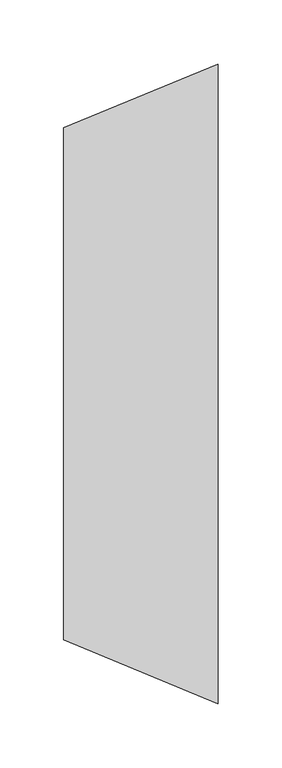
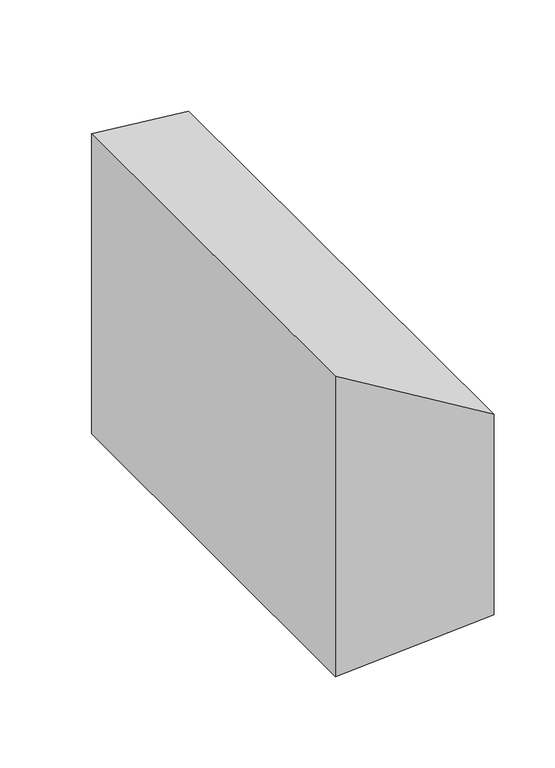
"""IFC4 building model written with IfcOpenShell, lengths in millimetres: duct fitting geometry, M_Transición rectangular - Ángulo : APT_45 graus."""

from ifc_helpers import new_model, si_unit, origin, place, context, project, spatial, faceted_brep, source, transform, mapped, element, save


def duct_fitting_e59b9992(model_context):
    return source(origin(), model_context, "Body", "Brep", [
        faceted_brep([(120.7106781, -249.9998513, 100.0), (120.7106781, -249.9998513, -100.0), (120.7106781, 250.0001487, -100.0), (120.7106781, 250.0001487, 100.0), (0.0, -200.0, 150.0), (0.0, 200.0, 150.0), (0.0, 200.0, -150.0), (0.0, -200.0, -150.0)], [[[0, 1, 2, 3]], [[4, 5, 6, 7]], [[4, 7, 1, 0]], [[7, 6, 2, 1]], [[6, 5, 3, 2]], [[5, 4, 0, 3]]]),
    ])


if __name__ == "__main__":
    model = new_model("IFC4")
    model_context = context("Model", 3, world=origin())
    ifc_project = project(units=[si_unit("LENGTHUNIT", "METRE", prefix="MILLI")], contexts=[model_context])
    site = spatial("IfcSite", under=ifc_project)
    building = spatial("IfcBuilding", under=site)
    placement = place(None, origin())
    duct_fitting_shape = duct_fitting_e59b9992(model_context)
    element("IfcDuctFitting", 1, ObjectType="M_Transición rectangular - Ángulo : APT_45 graus", at=placement, inside=building, context=model_context, shape_type="MappedRepresentation", body=[
        mapped(duct_fitting_shape, transform((0.0, 0.0, 0.0), x_axis=(1.0, 0.0, 0.0), y_axis=(0.0, 1.0, 0.0), z_axis=(0.0, 0.0, 1.0))),
    ])
    save(model, "model.ifc")
